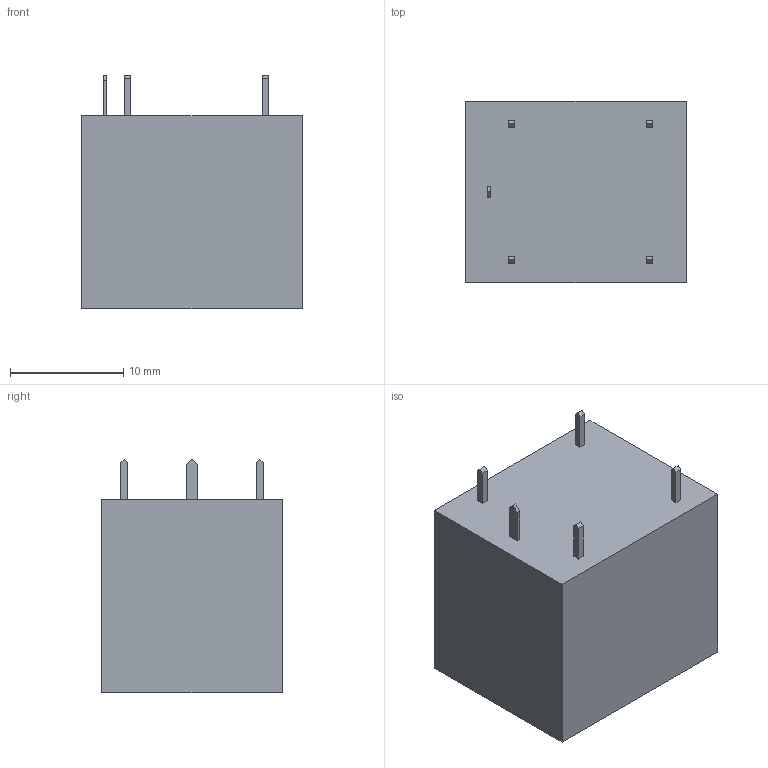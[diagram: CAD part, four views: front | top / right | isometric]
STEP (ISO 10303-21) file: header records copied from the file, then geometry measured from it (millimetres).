
FILE_DESCRIPTION(('FreeCAD Model'),'2;1');
FILE_NAME('C:/Users/Metaltex-99/Desktop/AXP.stp','2020-05-19T14:14:22',( 'Engenharia Metaltex'),('Metaltex'), 'Open CASCADE STEP processor 7.3','FreeCAD','Unknown');
FILE_SCHEMA(('AUTOMOTIVE_DESIGN { 1 0 10303 214 1 1 1 1 }'));
Length unit declared in the file: millimetre
Products named in the file (1): AXP
Bounding box: 19.5 x 16 x 20.7 mm (x, y, z)
Volume: 5341.2 mm3; surface area: 1879.8 mm2
Topology: 1 solids, 1 shells, 41 faces, 102 edges, 68 vertices
Faces by surface type: plane 41
Entity records: 2543 total; most frequent: CARTESIAN_POINT 416, DIRECTION 390, LINE 306, VECTOR 306, ORIENTED_EDGE 204, PCURVE 204, DEFINITIONAL_REPRESENTATION 204, EDGE_CURVE 102
